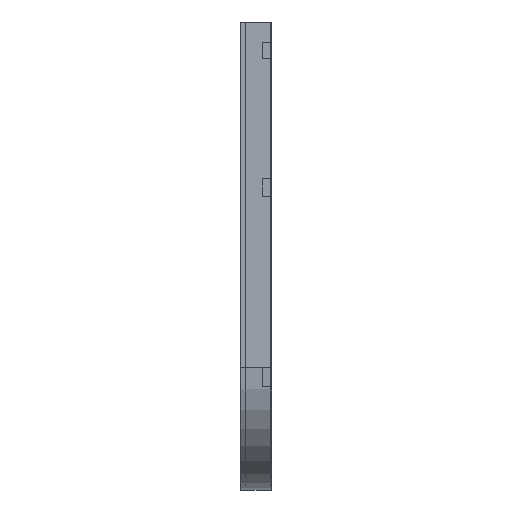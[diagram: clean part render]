
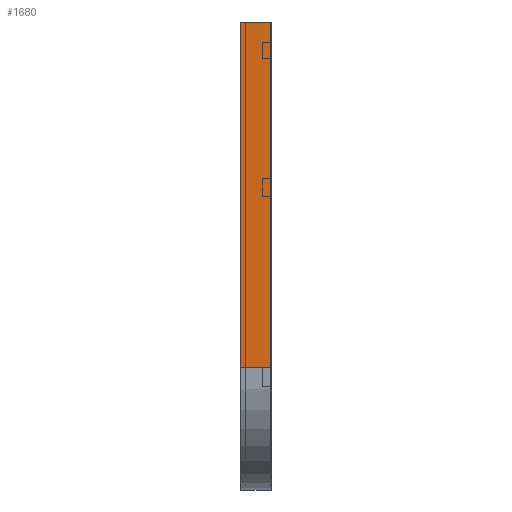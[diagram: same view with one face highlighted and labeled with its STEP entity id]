
A CAD part, left-side view. The second image highlights one B-rep face of the part: STEP entity #1680.
In plain terms, the highlighted planar face has unit normal (-1, 0, 0).
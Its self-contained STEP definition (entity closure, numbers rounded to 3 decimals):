
#30 = DIRECTION ( 'NONE',  ( 0., 0., -1. ) ) ;
#44 = VERTEX_POINT ( 'NONE', #1653 ) ;
#258 = EDGE_CURVE ( 'NONE', #1498, #696, #336, .T. ) ;
#316 = DIRECTION ( 'NONE',  ( 0., 0., -1. ) ) ;
#333 = CARTESIAN_POINT ( 'NONE',  ( 0., 0., 0. ) ) ;
#336 = LINE ( 'NONE', #796, #679 ) ;
#388 = CARTESIAN_POINT ( 'NONE',  ( 0., 75., 0. ) ) ;
#458 = PLANE ( 'NONE',  #1808 ) ;
#508 = VERTEX_POINT ( 'NONE', #1671 ) ;
#679 = VECTOR ( 'NONE', #769, 1000. ) ;
#695 = DIRECTION ( 'NONE',  ( 0., 0., -1. ) ) ;
#696 = VERTEX_POINT ( 'NONE', #333 ) ;
#769 = DIRECTION ( 'NONE',  ( 0., -1., 0. ) ) ;
#785 = LINE ( 'NONE', #1753, #2048 ) ;
#796 = CARTESIAN_POINT ( 'NONE',  ( 0., 0., 0. ) ) ;
#869 = LINE ( 'NONE', #877, #2031 ) ;
#870 = LINE ( 'NONE', #388, #1312 ) ;
#877 = CARTESIAN_POINT ( 'NONE',  ( 0., 0., -850. ) ) ;
#1029 = ORIENTED_EDGE ( 'NONE', *, *, #1378, .T. ) ;
#1044 = EDGE_CURVE ( 'NONE', #696, #508, #785, .T. ) ;
#1105 = DIRECTION ( 'NONE',  ( 1., 0., 0. ) ) ;
#1225 = EDGE_CURVE ( 'NONE', #1498, #44, #870, .T. ) ;
#1273 = EDGE_LOOP ( 'NONE', ( #1529, #1752, #1366, #1029 ) ) ;
#1311 = CARTESIAN_POINT ( 'NONE',  ( 0., 0., 0. ) ) ;
#1312 = VECTOR ( 'NONE', #695, 1000. ) ;
#1366 = ORIENTED_EDGE ( 'NONE', *, *, #1225, .T. ) ;
#1378 = EDGE_CURVE ( 'NONE', #44, #508, #869, .T. ) ;
#1498 = VERTEX_POINT ( 'NONE', #1703 ) ;
#1529 = ORIENTED_EDGE ( 'NONE', *, *, #1044, .F. ) ;
#1653 = CARTESIAN_POINT ( 'NONE',  ( 0., 75., -850. ) ) ;
#1671 = CARTESIAN_POINT ( 'NONE',  ( 0., 0., -850. ) ) ;
#1680 = ADVANCED_FACE ( 'NONE', ( #1915 ), #458, .F. ) ;
#1703 = CARTESIAN_POINT ( 'NONE',  ( 0., 75., 0. ) ) ;
#1752 = ORIENTED_EDGE ( 'NONE', *, *, #258, .F. ) ;
#1753 = CARTESIAN_POINT ( 'NONE',  ( 0., 0., 0. ) ) ;
#1808 = AXIS2_PLACEMENT_3D ( 'NONE', #1311, #1105, #30 ) ;
#1915 = FACE_OUTER_BOUND ( 'NONE', #1273, .T. ) ;
#1971 = DIRECTION ( 'NONE',  ( 0., -1., 0. ) ) ;
#2031 = VECTOR ( 'NONE', #1971, 1000. ) ;
#2048 = VECTOR ( 'NONE', #316, 1000. ) ;
